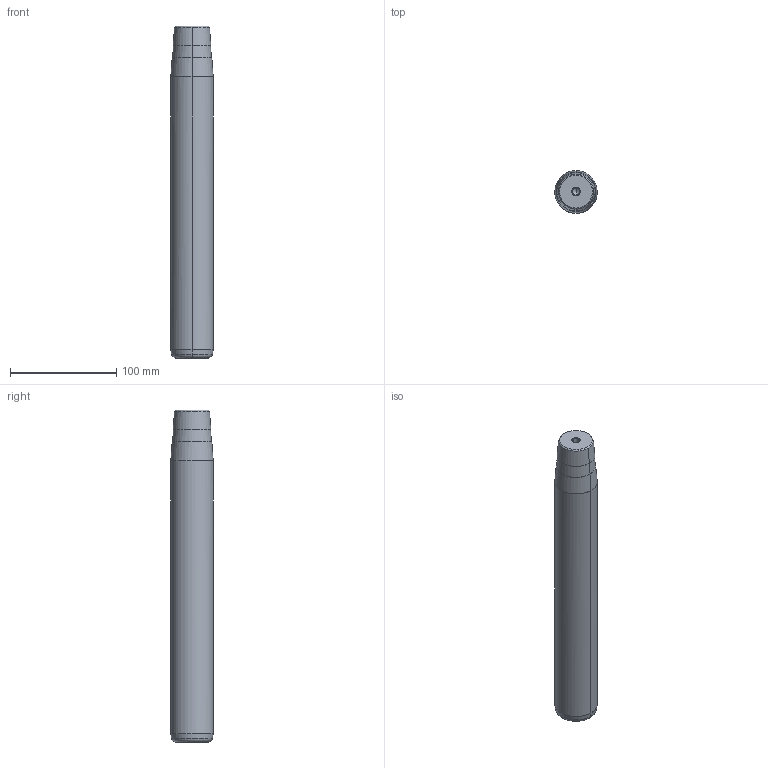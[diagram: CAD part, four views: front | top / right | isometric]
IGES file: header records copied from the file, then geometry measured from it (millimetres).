
Start section: START RECORD GO HERE.
Global section: file name: 722-40x280x313.igs; native system: DASSAULT SYSTEMES CATIA V5 R20 - www.3ds.com; preprocessor: CATIA Version 5 Release 20 ; author: Utente; organization: NB04-ASUS; date: 20210108.160814; units: millimetre
Bounding box: 40 x 40 x 313 mm (x, y, z)
Surface area: 41669.6 mm2 (no closed solid volume)
Topology: 0 solids, 0 shells, 32 faces, 192 edges, 188 vertices
Faces by surface type: revolution 30, plane 2
